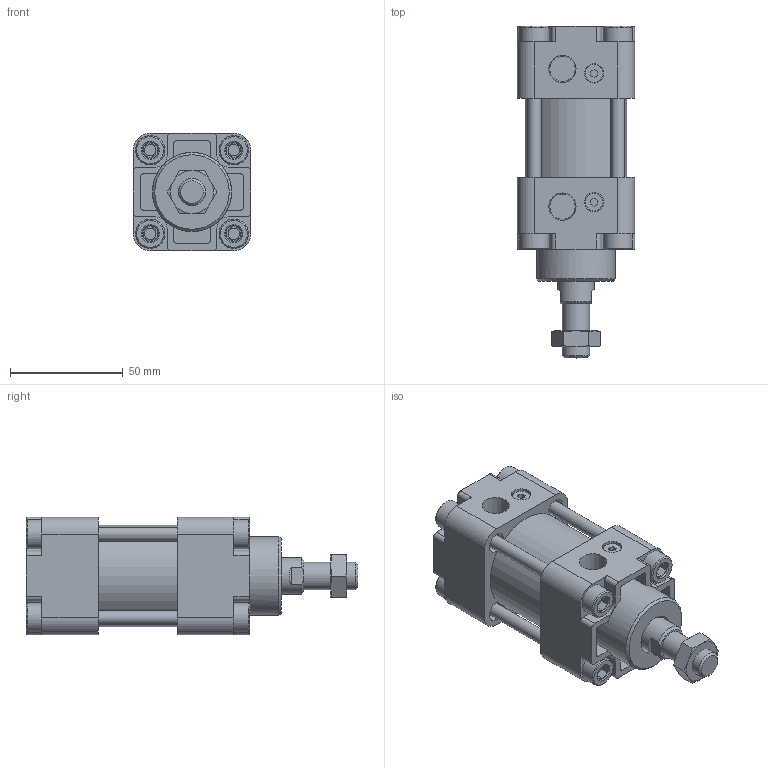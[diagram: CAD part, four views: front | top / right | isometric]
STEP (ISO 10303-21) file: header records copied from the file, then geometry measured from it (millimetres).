
FILE_DESCRIPTION(/* description */ ('Unknown'),/* implementation_level */ '2;1');
FILE_NAME(/* name */ 'WA40',/* time_stamp */ '2026-07-17T16:47:49+08:00',/* author */ ('Unknown'),/* organization */ ('Unknown'),/* preprocessor_version */ 'ST-DEVELOPER v16.7',/* originating_system */ 'DEX',/* authorisation */ $);
FILE_SCHEMA (('CONFIG_CONTROL_DESIGN'));
Length unit declared in the file: millimetre
Products named in the file (7): WA40; WA40_前; WA40_後; WA40_¾TeRefs; WA40_､ﾟｶbｬ｡; WA40_T碪墮姊濈祫; M12-1.25P-7_螺
Assembly tree (9 placements, depth 2):
  WA40
    WA40_前
    WA40_後
    WA40_¾TeRefs
    WA40_､ﾟｶbｬ｡
    WA40_T碪墮姊濈祫  x4
    M12-1.25P-7_螺
Bounding box: 52 x 147 x 52 mm (x, y, z)
Volume: 231538.5 mm3; surface area: 71011.3 mm2
Topology: 9 solids, 9 shells, 344 faces, 817 edges, 548 vertices
Faces by surface type: plane 205, cylinder 102, cone 37
Full cylindrical faces by diameter (mm): 5 x8, 6 x4, 8 x2, 8.5 x2, 8.8 x8, 9 x8, 10.647 x1, 12 x1, 13 x8, 16 x2, 35 x1, 39.5 x1, 40 x3, 45 x1
Entity records: 8583 total; most frequent: CARTESIAN_POINT 1247, DIRECTION 1208, ORIENTED_EDGE 1074, EDGE_CURVE 537, AXIS2_PLACEMENT_3D 450, VERTEX_POINT 377, EDGE_LOOP 328, FACE_BOUND 328
